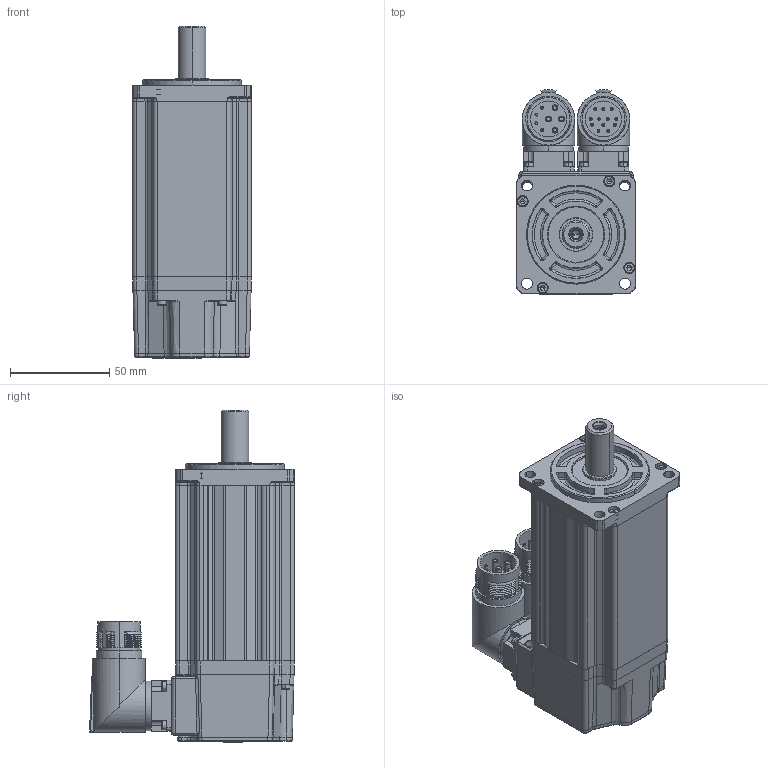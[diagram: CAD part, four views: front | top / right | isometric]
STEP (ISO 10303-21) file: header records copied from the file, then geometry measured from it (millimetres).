
FILE_DESCRIPTION (( 'STEP AP203' ), '1' );
FILE_NAME ('MC20-060-3L30-N401-1¡õPL-NNNN.STEP', '2025-07-29T14:34:59', ( '' ), ( '' ), 'SwSTEP 2.0', 'SolidWorks 2014', '' );
FILE_SCHEMA (( 'CONFIG_CONTROL_DESIGN' ));
Length unit declared in the file: millimetre
Products named in the file (1): MC20-060-3L30-N401-1¡õPL-NNNN
Bounding box: 60 x 103.37 x 167.5 mm (x, y, z)
Volume: 496996 mm3; surface area: 97692.7 mm2
Topology: 23 solids, 23 shells, 1853 faces, 4394 edges, 2658 vertices
Faces by surface type: plane 737, cylinder 506, cone 333, bspline 131, torus 126, sphere 20
Entity records: 55402 total; most frequent: CARTESIAN_POINT 13567, DIRECTION 8774, ORIENTED_EDGE 8656, EDGE_CURVE 4328, AXIS2_PLACEMENT_3D 3336, VERTEX_POINT 2658, LINE 2102, VECTOR 2102
